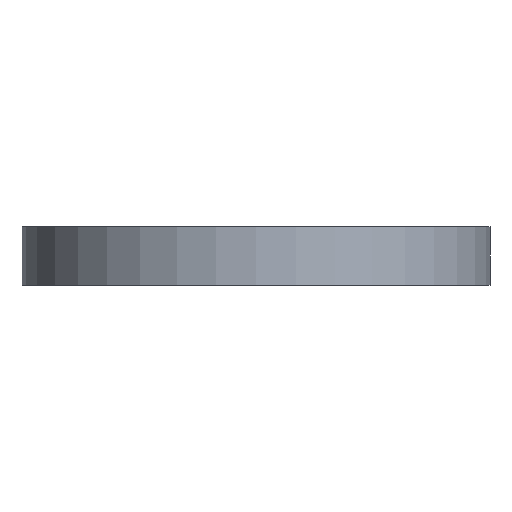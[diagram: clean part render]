
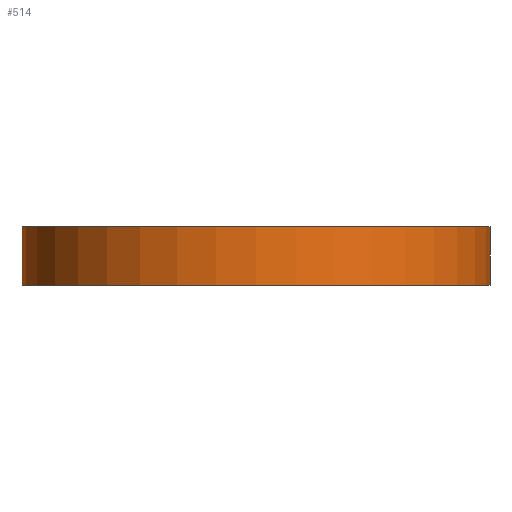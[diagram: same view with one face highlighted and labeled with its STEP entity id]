
A CAD part, left-side view. The second image highlights one B-rep face of the part: STEP entity #514.
In plain terms, the highlighted cylindrical face has radius 16 mm (diameter 32 mm), a partial arc.
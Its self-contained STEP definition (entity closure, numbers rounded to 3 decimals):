
#22 = VERTEX_POINT('',#23);
#23 = CARTESIAN_POINT('',(14.832,6.,0.));
#32 = PLANE('',#33);
#33 = AXIS2_PLACEMENT_3D('',#34,#35,#36);
#34 = CARTESIAN_POINT('',(0.,0.,0.));
#35 = DIRECTION('',(0.,0.,1.));
#36 = DIRECTION('',(1.,0.,-0.));
#44 = PLANE('',#45);
#45 = AXIS2_PLACEMENT_3D('',#46,#47,#48);
#46 = CARTESIAN_POINT('',(0.,6.,0.));
#47 = DIRECTION('',(0.,1.,0.));
#48 = DIRECTION('',(0.,0.,1.));
#56 = EDGE_CURVE('',#22,#57,#59,.T.);
#57 = VERTEX_POINT('',#58);
#58 = CARTESIAN_POINT('',(14.832,-6.,0.));
#59 = SURFACE_CURVE('',#60,(#65,#72),.PCURVE_S1.);
#60 = CIRCLE('',#61,16.);
#61 = AXIS2_PLACEMENT_3D('',#62,#63,#64);
#62 = CARTESIAN_POINT('',(0.,0.,0.));
#63 = DIRECTION('',(0.,0.,1.));
#64 = DIRECTION('',(1.,0.,-0.));
#65 = PCURVE('',#32,#66);
#66 = DEFINITIONAL_REPRESENTATION('',(#67),#71);
#67 = CIRCLE('',#68,16.);
#68 = AXIS2_PLACEMENT_2D('',#69,#70);
#69 = CARTESIAN_POINT('',(0.,0.));
#70 = DIRECTION('',(1.,0.));
#71 = ( GEOMETRIC_REPRESENTATION_CONTEXT(2) 
PARAMETRIC_REPRESENTATION_CONTEXT() REPRESENTATION_CONTEXT('2D SPACE',''
  ) );
#72 = PCURVE('',#73,#78);
#73 = CYLINDRICAL_SURFACE('',#74,16.);
#74 = AXIS2_PLACEMENT_3D('',#75,#76,#77);
#75 = CARTESIAN_POINT('',(0.,0.,0.));
#76 = DIRECTION('',(0.,0.,1.));
#77 = DIRECTION('',(1.,0.,-0.));
#78 = DEFINITIONAL_REPRESENTATION('',(#79),#83);
#79 = LINE('',#80,#81);
#80 = CARTESIAN_POINT('',(0.,0.));
#81 = VECTOR('',#82,1.);
#82 = DIRECTION('',(1.,0.));
#83 = ( GEOMETRIC_REPRESENTATION_CONTEXT(2) 
PARAMETRIC_REPRESENTATION_CONTEXT() REPRESENTATION_CONTEXT('2D SPACE',''
  ) );
#101 = PLANE('',#102);
#102 = AXIS2_PLACEMENT_3D('',#103,#104,#105);
#103 = CARTESIAN_POINT('',(0.,-6.,0.));
#104 = DIRECTION('',(0.,1.,0.));
#105 = DIRECTION('',(0.,0.,1.));
#445 = EDGE_CURVE('',#22,#446,#448,.T.);
#446 = VERTEX_POINT('',#447);
#447 = CARTESIAN_POINT('',(14.832,6.,4.));
#448 = SURFACE_CURVE('',#449,(#453,#459),.PCURVE_S1.);
#449 = LINE('',#450,#451);
#450 = CARTESIAN_POINT('',(14.832,6.,0.));
#451 = VECTOR('',#452,1.);
#452 = DIRECTION('',(0.,0.,1.));
#453 = PCURVE('',#44,#454);
#454 = DEFINITIONAL_REPRESENTATION('',(#455),#458);
#455 = B_SPLINE_CURVE_WITH_KNOTS('',1,(#456,#457),.UNSPECIFIED.,.F.,.F.,
  (2,2),(0.,4.),.PIECEWISE_BEZIER_KNOTS.);
#456 = CARTESIAN_POINT('',(0.,14.832));
#457 = CARTESIAN_POINT('',(4.,14.832));
#458 = ( GEOMETRIC_REPRESENTATION_CONTEXT(2) 
PARAMETRIC_REPRESENTATION_CONTEXT() REPRESENTATION_CONTEXT('2D SPACE',''
  ) );
#459 = PCURVE('',#73,#460);
#460 = DEFINITIONAL_REPRESENTATION('',(#461),#464);
#461 = B_SPLINE_CURVE_WITH_KNOTS('',1,(#462,#463),.UNSPECIFIED.,.F.,.F.,
  (2,2),(0.,4.),.PIECEWISE_BEZIER_KNOTS.);
#462 = CARTESIAN_POINT('',(0.384,0.));
#463 = CARTESIAN_POINT('',(0.384,4.));
#464 = ( GEOMETRIC_REPRESENTATION_CONTEXT(2) 
PARAMETRIC_REPRESENTATION_CONTEXT() REPRESENTATION_CONTEXT('2D SPACE',''
  ) );
#482 = PLANE('',#483);
#483 = AXIS2_PLACEMENT_3D('',#484,#485,#486);
#484 = CARTESIAN_POINT('',(0.,-6.,4.));
#485 = DIRECTION('',(0.,0.,1.));
#486 = DIRECTION('',(1.,0.,0.));
#514 = ADVANCED_FACE('',(#515),#73,.T.);
#515 = FACE_BOUND('',#516,.T.);
#516 = EDGE_LOOP('',(#517,#541,#542,#543));
#517 = ORIENTED_EDGE('',*,*,#518,.F.);
#518 = EDGE_CURVE('',#446,#519,#521,.T.);
#519 = VERTEX_POINT('',#520);
#520 = CARTESIAN_POINT('',(14.832,-6.,4.));
#521 = SURFACE_CURVE('',#522,(#527,#534),.PCURVE_S1.);
#522 = CIRCLE('',#523,16.);
#523 = AXIS2_PLACEMENT_3D('',#524,#525,#526);
#524 = CARTESIAN_POINT('',(0.,0.,4.));
#525 = DIRECTION('',(0.,0.,1.));
#526 = DIRECTION('',(1.,0.,-0.));
#527 = PCURVE('',#73,#528);
#528 = DEFINITIONAL_REPRESENTATION('',(#529),#533);
#529 = LINE('',#530,#531);
#530 = CARTESIAN_POINT('',(0.,4.));
#531 = VECTOR('',#532,1.);
#532 = DIRECTION('',(1.,0.));
#533 = ( GEOMETRIC_REPRESENTATION_CONTEXT(2) 
PARAMETRIC_REPRESENTATION_CONTEXT() REPRESENTATION_CONTEXT('2D SPACE',''
  ) );
#534 = PCURVE('',#482,#535);
#535 = DEFINITIONAL_REPRESENTATION('',(#536),#540);
#536 = CIRCLE('',#537,16.);
#537 = AXIS2_PLACEMENT_2D('',#538,#539);
#538 = CARTESIAN_POINT('',(0.,6.));
#539 = DIRECTION('',(1.,0.));
#540 = ( GEOMETRIC_REPRESENTATION_CONTEXT(2) 
PARAMETRIC_REPRESENTATION_CONTEXT() REPRESENTATION_CONTEXT('2D SPACE',''
  ) );
#541 = ORIENTED_EDGE('',*,*,#445,.F.);
#542 = ORIENTED_EDGE('',*,*,#56,.T.);
#543 = ORIENTED_EDGE('',*,*,#544,.T.);
#544 = EDGE_CURVE('',#57,#519,#545,.T.);
#545 = SURFACE_CURVE('',#546,(#550,#556),.PCURVE_S1.);
#546 = LINE('',#547,#548);
#547 = CARTESIAN_POINT('',(14.832,-6.,0.));
#548 = VECTOR('',#549,1.);
#549 = DIRECTION('',(0.,0.,1.));
#550 = PCURVE('',#73,#551);
#551 = DEFINITIONAL_REPRESENTATION('',(#552),#555);
#552 = B_SPLINE_CURVE_WITH_KNOTS('',1,(#553,#554),.UNSPECIFIED.,.F.,.F.,
  (2,2),(0.,4.),.PIECEWISE_BEZIER_KNOTS.);
#553 = CARTESIAN_POINT('',(5.899,0.));
#554 = CARTESIAN_POINT('',(5.899,4.));
#555 = ( GEOMETRIC_REPRESENTATION_CONTEXT(2) 
PARAMETRIC_REPRESENTATION_CONTEXT() REPRESENTATION_CONTEXT('2D SPACE',''
  ) );
#556 = PCURVE('',#101,#557);
#557 = DEFINITIONAL_REPRESENTATION('',(#558),#561);
#558 = B_SPLINE_CURVE_WITH_KNOTS('',1,(#559,#560),.UNSPECIFIED.,.F.,.F.,
  (2,2),(0.,4.),.PIECEWISE_BEZIER_KNOTS.);
#559 = CARTESIAN_POINT('',(0.,14.832));
#560 = CARTESIAN_POINT('',(4.,14.832));
#561 = ( GEOMETRIC_REPRESENTATION_CONTEXT(2) 
PARAMETRIC_REPRESENTATION_CONTEXT() REPRESENTATION_CONTEXT('2D SPACE',''
  ) );
